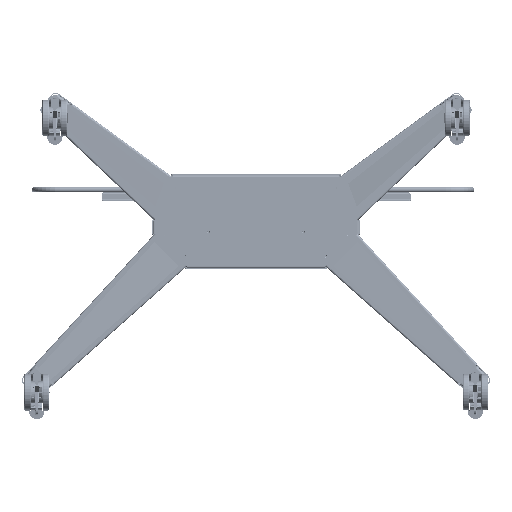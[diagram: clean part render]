
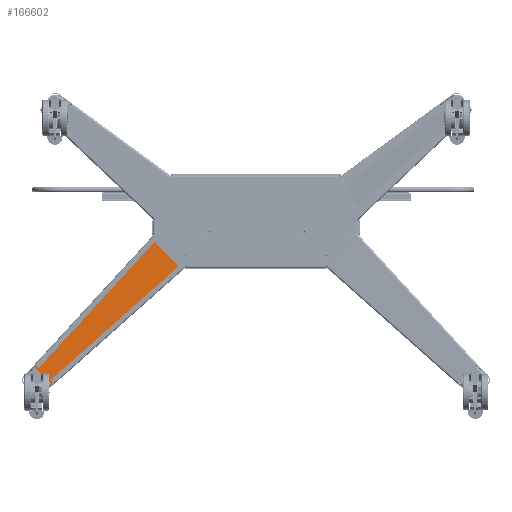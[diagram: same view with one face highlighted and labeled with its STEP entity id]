
A CAD part, left-side view. The second image highlights one B-rep face of the part: STEP entity #166602.
In plain terms, the highlighted planar face has unit normal (-0.999, -0.034, 0.033) as drawn and (0.034, -0.999, 0.033) by its records, which use the part's own axes.
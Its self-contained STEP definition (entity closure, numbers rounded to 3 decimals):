
#164240=CARTESIAN_POINT('',(-273.484,51.496,
-28.513));
#164259=CARTESIAN_POINT('',(-273.396,51.502,
-28.422));
#164260=CARTESIAN_POINT('',(-273.406,51.502,
-28.432));
#164261=CARTESIAN_POINT('',(-273.426,51.5,
-28.452));
#164262=CARTESIAN_POINT('',(-273.457,51.498,
-28.481));
#164263=CARTESIAN_POINT('',(-273.474,51.497,
-28.503));
#164264=CARTESIAN_POINT('',(-273.484,51.496,
-28.513));
#164306=CARTESIAN_POINT('',(-192.032,51.505,
-111.098));
#164328=CARTESIAN_POINT('',(-192.879,51.496,
-110.538));
#164507=DIRECTION('',(0.664,-0.002,-0.748));
#164508=VECTOR('',#164507,0.103);
#164509=CARTESIAN_POINT('',(-589.623,26.187,
-462.741));
#164510=LINE('',#164509,#164508);
#164655=DIRECTION('',(0.701,0.,-0.713));
#164656=VECTOR('',#164655,41.477);
#164657=CARTESIAN_POINT('',(-632.435,25.731,
-432.798));
#164658=LINE('',#164657,#164656);
#164668=DIRECTION('',(-0.712,-0.048,
-0.7));
#164669=VECTOR('',#164668,0.147);
#164670=CARTESIAN_POINT('',(-632.33,25.738,
-432.695));
#164671=LINE('',#164670,#164669);
#164717=DIRECTION('',(0.676,0.048,0.735));
#164718=VECTOR('',#164717,531.126);
#164719=CARTESIAN_POINT('',(-632.632,26.187,
-418.983));
#164720=LINE('',#164719,#164718);
#164721=DIRECTION('',(0.701,0.,-0.713));
#164722=VECTOR('',#164721,75.002);
#164723=CARTESIAN_POINT('',(-273.396,51.502,
-28.422));
#164724=LINE('',#164723,#164722);
#164725=CARTESIAN_POINT('',(-220.827,51.502,
-81.918));
#164726=CARTESIAN_POINT('',(-217.632,51.502,
-85.164));
#164727=CARTESIAN_POINT('',(-211.241,51.503,
-91.655));
#164728=CARTESIAN_POINT('',(-201.637,51.505,
-101.371));
#164729=CARTESIAN_POINT('',(-195.237,51.504,
-107.863));
#164730=CARTESIAN_POINT('',(-192.032,51.505,
-111.098));
#164732=CARTESIAN_POINT('',(-192.032,51.505,
-111.098));
#164733=CARTESIAN_POINT('',(-192.059,51.503,
-111.125));
#164734=CARTESIAN_POINT('',(-192.103,51.503,
-111.138));
#164735=CARTESIAN_POINT('',(-192.166,51.502,
-111.073));
#164736=CARTESIAN_POINT('',(-192.241,51.502,
-111.024));
#164737=CARTESIAN_POINT('',(-192.323,51.501,
-110.964));
#164738=CARTESIAN_POINT('',(-192.414,51.5,
-110.9));
#164739=CARTESIAN_POINT('',(-192.514,51.499,
-110.827));
#164740=CARTESIAN_POINT('',(-192.624,51.498,
-110.744));
#164741=CARTESIAN_POINT('',(-192.745,51.497,
-110.649));
#164742=CARTESIAN_POINT('',(-192.833,51.497,
-110.577));
#164743=CARTESIAN_POINT('',(-192.879,51.496,
-110.538));
#164745=DIRECTION('',(-0.747,-0.048,
-0.663));
#164746=VECTOR('',#164745,531.125);
#164747=CARTESIAN_POINT('',(-192.879,51.496,
-110.538));
#164748=LINE('',#164747,#164746);
#164749=CARTESIAN_POINT('',(-589.623,26.187,
-462.741));
#164750=CARTESIAN_POINT('',(-590.456,26.136,
-463.43));
#164751=CARTESIAN_POINT('',(-592.138,26.042,
-464.516));
#164752=CARTESIAN_POINT('',(-594.536,25.937,
-465.207));
#164753=CARTESIAN_POINT('',(-597.446,25.834,
-465.334));
#164754=CARTESIAN_POINT('',(-600.679,25.755,
-464.379));
#164755=CARTESIAN_POINT('',(-602.413,25.739,
-463.108));
#164756=CARTESIAN_POINT('',(-603.259,25.738,
-462.279));
#164758=DIRECTION('',(-0.712,-0.048,
-0.7));
#164759=VECTOR('',#164758,0.147);
#164760=CARTESIAN_POINT('',(-603.259,25.738,
-462.279));
#164761=LINE('',#164760,#164759);
#164762=CARTESIAN_POINT('',(-632.33,25.738,
-432.695));
#164763=CARTESIAN_POINT('',(-633.081,25.74,
-431.879));
#164764=CARTESIAN_POINT('',(-634.272,25.755,
-430.211));
#164765=CARTESIAN_POINT('',(-635.099,25.811,
-427.698));
#164766=CARTESIAN_POINT('',(-635.286,25.904,
-424.732));
#164767=CARTESIAN_POINT('',(-634.437,26.038,
-421.592));
#164768=CARTESIAN_POINT('',(-633.304,26.134,
-419.886));
#164769=CARTESIAN_POINT('',(-632.554,26.187,
-419.052));
#165352=DIRECTION('',(0.749,0.003,-0.662));
#165353=VECTOR('',#165352,0.104);
#165354=CARTESIAN_POINT('',(-632.632,26.187,
-418.983));
#165355=LINE('',#165354,#165353);
#165437=VERTEX_POINT('',#164240);
#165438=CARTESIAN_POINT('',(-632.632,26.187,
-418.983));
#165439=VERTEX_POINT('',#165438);
#165444=CARTESIAN_POINT('',(-273.397,51.502,
-28.423));
#165445=VERTEX_POINT('',#165444);
#165451=VERTEX_POINT('',#164306);
#165457=VERTEX_POINT('',#164328);
#165500=CARTESIAN_POINT('',(-589.555,26.187,
-462.818));
#165501=VERTEX_POINT('',#165500);
#165502=CARTESIAN_POINT('',(-589.623,26.187,
-462.741));
#165503=VERTEX_POINT('',#165502);
#165522=CARTESIAN_POINT('',(-632.435,25.731,
-432.798));
#165523=VERTEX_POINT('',#165522);
#165524=CARTESIAN_POINT('',(-603.363,25.731,
-462.382));
#165525=VERTEX_POINT('',#165524);
#165528=CARTESIAN_POINT('',(-632.33,25.738,
-432.695));
#165529=VERTEX_POINT('',#165528);
#165530=CARTESIAN_POINT('',(-603.259,25.738,
-462.279));
#165531=VERTEX_POINT('',#165530);
#165532=VERTEX_POINT('',#164725);
#165533=VERTEX_POINT('',#164769);
#166577=CARTESIAN_POINT('',(-285.641,51.503,
-15.928));
#166578=DIRECTION('',(0.034,-0.999,0.033));
#166579=DIRECTION('',(-0.712,-0.048,
-0.7));
#166580=AXIS2_PLACEMENT_3D('',#166577,#166578,#166579);
#166581=PLANE('',#166580);
#166582=ORIENTED_EDGE('',*,*,#165847,.T.);
#166583=ORIENTED_EDGE('',*,*,#165907,.F.);
#166585=ORIENTED_EDGE('',*,*,#166584,.T.);
#166587=ORIENTED_EDGE('',*,*,#166586,.T.);
#166588=ORIENTED_EDGE('',*,*,#166020,.T.);
#166589=ORIENTED_EDGE('',*,*,#166230,.T.);
#166590=ORIENTED_EDGE('',*,*,#166248,.F.);
#166592=ORIENTED_EDGE('',*,*,#166591,.T.);
#166593=ORIENTED_EDGE('',*,*,#166568,.T.);
#166594=ORIENTED_EDGE('',*,*,#166443,.F.);
#166595=ORIENTED_EDGE('',*,*,#166462,.F.);
#166597=ORIENTED_EDGE('',*,*,#166596,.T.);
#166599=ORIENTED_EDGE('',*,*,#166598,.F.);
#166600=EDGE_LOOP('',(#166582,#166583,#166585,#166587,#166588,#166589,#166590,
#166592,#166593,#166594,#166595,#166597,#166599));
#166601=FACE_OUTER_BOUND('',#166600,.F.);
#166602=ADVANCED_FACE('',(#166601),#166581,.T.);
#164265=B_SPLINE_CURVE_WITH_KNOTS('',3,(#164259,#164260,#164261,#164262,#164263,
#164264),.UNSPECIFIED.,.F.,.F.,(4,1,1,4),(0.,0.333,
0.667,1.),.UNSPECIFIED.);
#164731=B_SPLINE_CURVE_WITH_KNOTS('',3,(#164725,#164726,#164727,#164728,#164729,
#164730),.UNSPECIFIED.,.F.,.F.,(4,1,1,4),(0.,0.333,
0.667,1.),.UNSPECIFIED.);
#164744=B_SPLINE_CURVE_WITH_KNOTS('',3,(#164732,#164733,#164734,#164735,#164736,
#164737,#164738,#164739,#164740,#164741,#164742,#164743),.UNSPECIFIED.,.F.,.F.,(
4,1,1,1,1,1,1,1,1,4),(0.,0.111,0.222,
0.333,0.444,0.556,0.667,
0.778,0.889,1.),.UNSPECIFIED.);
#164757=B_SPLINE_CURVE_WITH_KNOTS('',3,(#164749,#164750,#164751,#164752,#164753,
#164754,#164755,#164756),.UNSPECIFIED.,.F.,.F.,(4,1,1,1,1,4),(0.,
0.198,0.399,0.6,0.8,1.),
.UNSPECIFIED.);
#164770=B_SPLINE_CURVE_WITH_KNOTS('',3,(#164762,#164763,#164764,#164765,#164766,
#164767,#164768,#164769),.UNSPECIFIED.,.F.,.F.,(4,1,1,1,1,4),(0.,
0.198,0.399,0.6,0.8,1.),
.UNSPECIFIED.);
#165847=EDGE_CURVE('',#165439,#165437,#164720,.T.);
#165907=EDGE_CURVE('',#165445,#165437,#164265,.T.);
#166020=EDGE_CURVE('',#165451,#165457,#164744,.T.);
#166230=EDGE_CURVE('',#165457,#165501,#164748,.T.);
#166248=EDGE_CURVE('',#165503,#165501,#164510,.T.);
#166443=EDGE_CURVE('',#165523,#165525,#164658,.T.);
#166462=EDGE_CURVE('',#165529,#165523,#164671,.T.);
#166568=EDGE_CURVE('',#165531,#165525,#164761,.T.);
#166584=EDGE_CURVE('',#165445,#165532,#164724,.T.);
#166586=EDGE_CURVE('',#165532,#165451,#164731,.T.);
#166591=EDGE_CURVE('',#165503,#165531,#164757,.T.);
#166596=EDGE_CURVE('',#165529,#165533,#164770,.T.);
#166598=EDGE_CURVE('',#165439,#165533,#165355,.T.);
